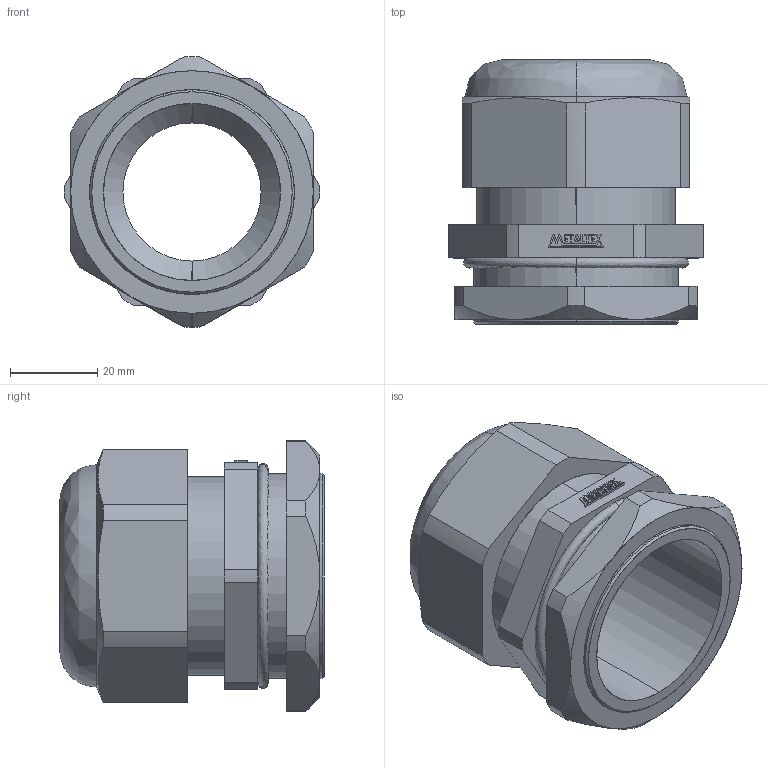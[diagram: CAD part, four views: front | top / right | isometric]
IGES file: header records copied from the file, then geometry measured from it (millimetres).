
Start section: SolidWorks IGES file using analytic representation for surfaces
Global section: file name: D:\X - Arquivos\PROEX\Empresas\P11 - METALTEX\01 - Produtos\IGES\Terceira remessa\Etapa 2\CH-PG36.IGS; native system: SolidWorks 2012; preprocessor: SolidWorks 2012; author: Usuario; date: 180207.123517; units: millimetre
Bounding box: 58.59 x 60.7 x 62.09 mm (x, y, z)
Surface area: 23000.9 mm2 (no closed solid volume)
Topology: 0 solids, 0 shells, 174 faces, 1625 edges, 1625 vertices
Faces by surface type: bspline 125, revolution 49
